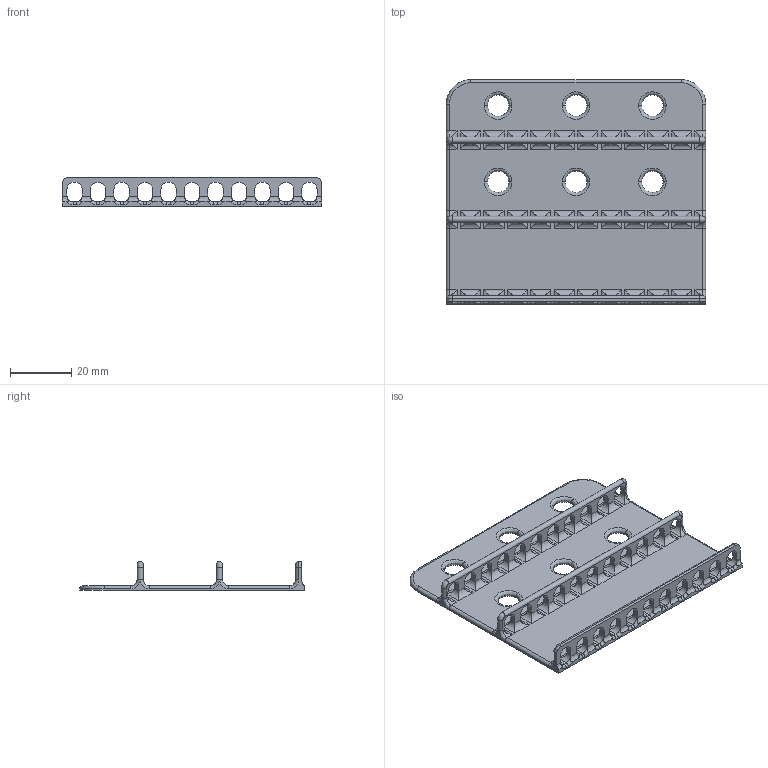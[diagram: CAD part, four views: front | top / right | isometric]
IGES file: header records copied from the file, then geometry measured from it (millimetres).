
Start section:  PTC IGES file: wiredispenser_btm.igs
Global section: file name: wiredispenser_btm.igs; native system: Creo Parametric by Parametric Technology Corporation; preprocessor: 2012130; author: GOC; organization: Unknown; date: 20141105.213324; units: millimetre
Bounding box: 85 x 73.64 x 9.5 mm (x, y, z)
Volume: 11260.7 mm3; surface area: 15683.8 mm2
Topology: 1 solids, 1 shells, 345 faces, 991 edges, 602 vertices
Faces by surface type: revolution 266, bspline 79
